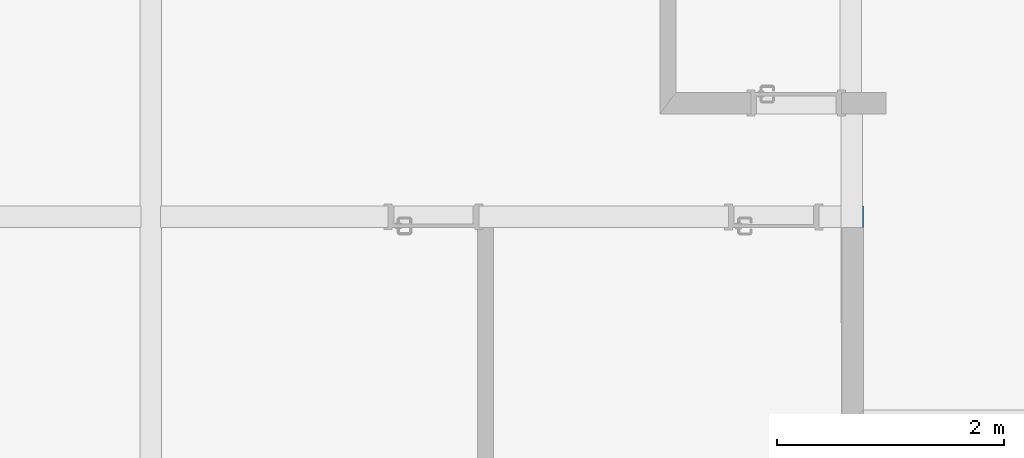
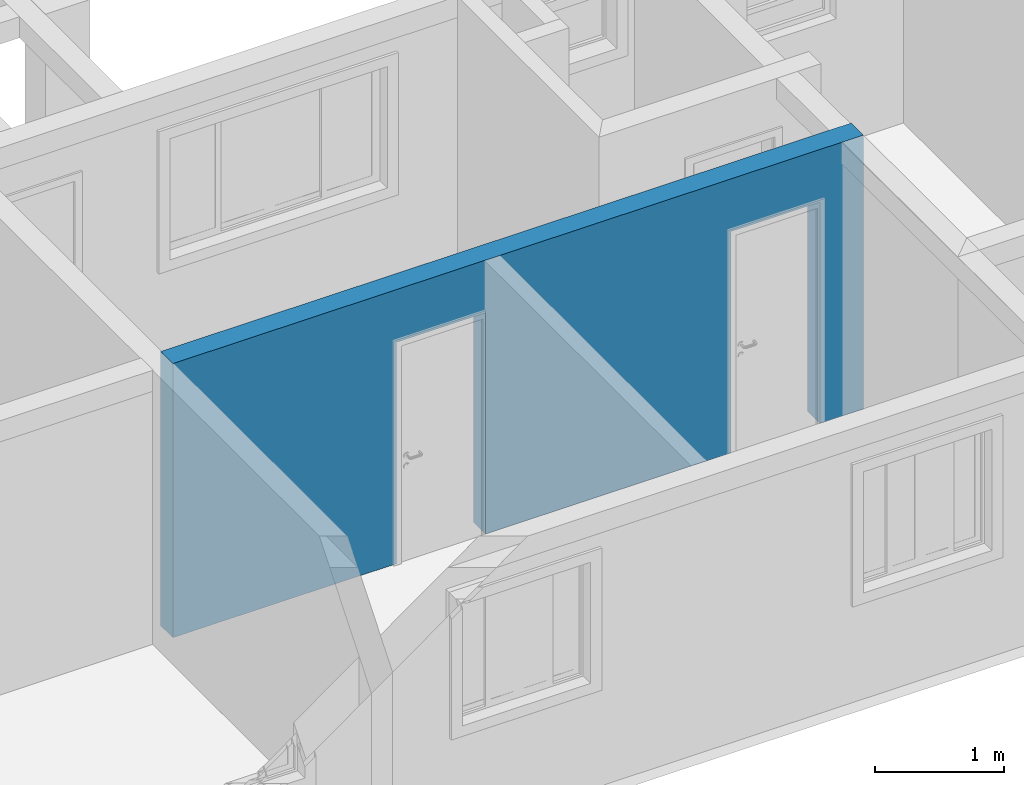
# One storey, part 13 of 43: 1 wall, 2 openings.
"""IFC2X3 building model written with IfcOpenShell, lengths in millimetres."""

from ifc_helpers import new_model, entity, si_unit, converted_unit, derived_unit, money_unit, direction, frame, origin_with_axes, origin_2d_with_axis, place, context, subcontext, project, spatial, polyline, rectangle, outline, extrude, material, layer, layer_set, layer_usage, type_object, element, save


model = new_model("IFC2X3")

# Units and contexts
model_context = context("Model", 3, precision=0.01, world=origin_with_axes(), true_north=direction((0.0, 1.0)))
body_context = subcontext(model_context, "Body", "Model", "MODEL_VIEW")
ifc_project = project(units=[si_unit("LENGTHUNIT", "METRE", prefix="MILLI"), si_unit("AREAUNIT", "SQUARE_METRE"), si_unit("VOLUMEUNIT", "CUBIC_METRE"), converted_unit("PLANEANGLEUNIT", "DEGREE", entity("IfcPlaneAngleMeasure", 0.0174532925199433), si_unit("PLANEANGLEUNIT", "RADIAN"), dimensions=[0, 0, 0, 0, 0, 0, 0]), money_unit("USD"), converted_unit("TIMEUNIT", "Year", entity("IfcTimeMeasure", 31557600.0), si_unit("TIMEUNIT", "SECOND"), dimensions=[0, 0, 1, 0, 0, 0, 0]), si_unit("MASSUNIT", "GRAM", prefix="KILO"), si_unit("THERMODYNAMICTEMPERATUREUNIT", "DEGREE_CELSIUS"), si_unit("LUMINOUSINTENSITYUNIT", "LUMEN"), si_unit("ENERGYUNIT", "JOULE", prefix="MEGA"), derived_unit("THERMALCONDUCTANCEUNIT", [(si_unit("POWERUNIT", "WATT"), 1), (si_unit("LENGTHUNIT", "METRE"), -1), (si_unit("THERMODYNAMICTEMPERATUREUNIT", "KELVIN"), -1)]), derived_unit("SPECIFICHEATCAPACITYUNIT", [(si_unit("ENERGYUNIT", "JOULE"), 1), (si_unit("MASSUNIT", "GRAM", prefix="KILO"), -1), (si_unit("THERMODYNAMICTEMPERATUREUNIT", "KELVIN"), -1)]), derived_unit("MASSDENSITYUNIT", [(si_unit("MASSUNIT", "GRAM", prefix="KILO"), 1), (si_unit("VOLUMEUNIT", "CUBIC_METRE"), -1)])], contexts=[model_context])

# Site, building, storey
site_placement = place(None, origin_with_axes())
site = spatial("IfcSite", under=ifc_project, at=site_placement, Name="Local", CompositionType="ELEMENT")
building_placement = place(site_placement, origin_with_axes())
building = spatial("IfcBuilding", under=site, at=building_placement, Name="Construção", CompositionType="ELEMENT")
storey_placement = place(building_placement, origin_with_axes())
storey = spatial("IfcBuildingStorey", under=building, at=storey_placement, Name="Pavimento Tipo", CompositionType="ELEMENT", Elevation=0.0)

# Wall, openings
ifc_material = material(Name="Concreto - Estrutural")
ifc_layer = layer(ifc_material, 190.0, ventilated="UNKNOWN")
ifc_layer_set = layer_set([ifc_layer], Name="Concreto - Estrutural 190")
ifc_layer_usage = layer_usage(ifc_layer_set, "AXIS2", "POSITIVE", -190.0)
wall_type = type_object("IfcWallType", Name="Concreto - Estrutural 190", PredefinedType="NOTDEFINED")
wall_placement = place(storey_placement, frame((63884.1437484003, -4768.450075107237, 0.0), z_axis=(0.0, 0.0, 1.0), x_axis=(0.9999999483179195, -0.0003215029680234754, 0.0)))
wall = element("IfcWallStandardCase", 1, at=wall_placement, inside=storey, type_object=wall_type, material=ifc_layer_usage, Name="Apartamento 4 - Parede-007", context=body_context, shape_type="SweptSolid", body=[
    extrude(outline(polyline([(0.0, -189.9999999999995), (6195.390722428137, -189.9999999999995), (6195.390722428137, 0.0), (0.0, 0.0), (0.0, -189.9999999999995)])), origin_with_axes(), (0.0, 0.0, 1.0), 2600.0),
])
opening_1_placement = place(wall_placement, frame((5405.390742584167, 0.0, 0.0), z_axis=(0.0, 0.0, 1.0), x_axis=(1.0, 0.0, 0.0)))
element("IfcOpeningElement", 2, at=opening_1_placement, cuts=wall, Name="Apartamento 4 - P03", context=body_context, shape_type="SweptSolid", body=[
    extrude(rectangle(XDim=799.9999999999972, YDim=2100.0, at=origin_2d_with_axis()), frame((0.0, -189.9999999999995, 1050.0), z_axis=(0.0, -1.0, 0.0), x_axis=(1.0, 0.0, 0.0)), (0.0, 0.0, -1.0), 570.0000000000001),
    extrude(rectangle(XDim=869.9999999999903, YDim=2135.0, at=origin_2d_with_axis()), frame((0.0, -189.9999999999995, 1067.5), z_axis=(0.0, -1.0, 0.0), x_axis=(1.0, 0.0, 0.0)), (0.0, 0.0, 1.0), 190.0),
    extrude(rectangle(XDim=870.0000000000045, YDim=2135.0, at=origin_2d_with_axis()), frame((0.0, 0.0, 1067.5), z_axis=(0.0, 1.0, 0.0), x_axis=(1.0, 0.0, 0.0)), (0.0, 0.0, 1.0), 190.0),
])
opening_2_placement = place(wall_placement, frame((2405.390897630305, 0.0, 0.0), z_axis=(0.0, 0.0, 1.0), x_axis=(1.0, 0.0, 0.0)))
element("IfcOpeningElement", 3, at=opening_2_placement, cuts=wall, Name="Apartamento 4 - P04", context=body_context, shape_type="SweptSolid", body=[
    extrude(rectangle(XDim=799.999999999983, YDim=2100.0, at=origin_2d_with_axis()), frame((0.0, -189.9999999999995, 1050.0), z_axis=(0.0, -1.0, 0.0), x_axis=(1.0, 0.0, 0.0)), (0.0, 0.0, -1.0), 570.0000000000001),
    extrude(rectangle(XDim=869.9999999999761, YDim=2135.0, at=origin_2d_with_axis()), frame((0.0, -189.9999999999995, 1067.5), z_axis=(0.0, -1.0, 0.0), x_axis=(1.0, 0.0, 0.0)), (0.0, 0.0, 1.0), 190.0),
    extrude(rectangle(XDim=869.9999999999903, YDim=2135.0, at=origin_2d_with_axis()), frame((0.0, 0.0, 1067.5), z_axis=(0.0, 1.0, 0.0), x_axis=(1.0, 0.0, 0.0)), (0.0, 0.0, 1.0), 190.0),
])

save(model, "model.ifc")
